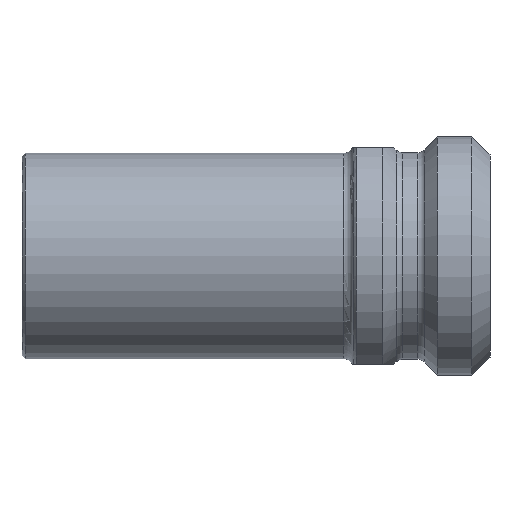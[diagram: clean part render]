
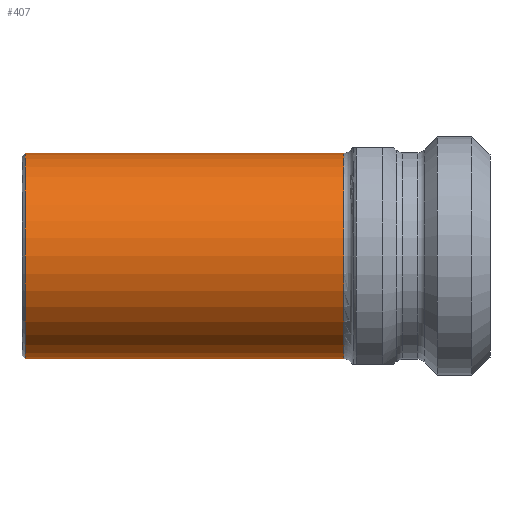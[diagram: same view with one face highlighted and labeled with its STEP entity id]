
A CAD part, front view. The second image highlights one B-rep face of the part: STEP entity #407.
In plain terms, the highlighted cylindrical face has radius 9 mm (diameter 18 mm), a full revolution.
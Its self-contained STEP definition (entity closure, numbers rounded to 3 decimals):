
#36=CIRCLE('',#453,9.);
#39=CIRCLE('',#456,9.);
#50=CIRCLE('',#473,9.);
#51=CIRCLE('',#474,9.);
#65=CYLINDRICAL_SURFACE('',#472,9.);
#81=FACE_OUTER_BOUND('',#104,.T.);
#104=EDGE_LOOP('',(#340,#341,#342,#343,#344,#345));
#134=LINE('',#749,#152);
#152=VECTOR('',#579,9.);
#182=VERTEX_POINT('',#717);
#183=VERTEX_POINT('',#718);
#191=VERTEX_POINT('',#748);
#192=VERTEX_POINT('',#750);
#229=EDGE_CURVE('',#182,#183,#36,.T.);
#232=EDGE_CURVE('',#183,#182,#39,.T.);
#245=EDGE_CURVE('',#182,#191,#134,.T.);
#246=EDGE_CURVE('',#192,#191,#50,.T.);
#247=EDGE_CURVE('',#191,#192,#51,.T.);
#340=ORIENTED_EDGE('',*,*,#229,.F.);
#341=ORIENTED_EDGE('',*,*,#245,.T.);
#342=ORIENTED_EDGE('',*,*,#246,.F.);
#343=ORIENTED_EDGE('',*,*,#247,.F.);
#344=ORIENTED_EDGE('',*,*,#245,.F.);
#345=ORIENTED_EDGE('',*,*,#232,.F.);
#407=ADVANCED_FACE('',(#81),#65,.T.);
#453=AXIS2_PLACEMENT_3D('',#719,#537,#538);
#456=AXIS2_PLACEMENT_3D('',#722,#543,#544);
#472=AXIS2_PLACEMENT_3D('',#747,#577,#578);
#473=AXIS2_PLACEMENT_3D('',#751,#580,#581);
#474=AXIS2_PLACEMENT_3D('',#752,#582,#583);
#537=DIRECTION('center_axis',(1.,0.,0.));
#538=DIRECTION('ref_axis',(0.,-1.,0.));
#543=DIRECTION('center_axis',(1.,0.,0.));
#544=DIRECTION('ref_axis',(0.,-1.,0.));
#577=DIRECTION('center_axis',(1.,0.,0.));
#578=DIRECTION('ref_axis',(0.,1.,0.));
#579=DIRECTION('',(-1.,0.,0.));
#580=DIRECTION('center_axis',(-1.,0.,0.));
#581=DIRECTION('ref_axis',(0.,-1.,0.));
#582=DIRECTION('center_axis',(-1.,0.,0.));
#583=DIRECTION('ref_axis',(0.,-1.,0.));
#717=CARTESIAN_POINT('',(-12.8,-9.,0.));
#718=CARTESIAN_POINT('',(-12.8,0.,9.));
#719=CARTESIAN_POINT('Origin',(-12.8,0.,0.));
#722=CARTESIAN_POINT('Origin',(-12.8,0.,0.));
#747=CARTESIAN_POINT('Origin',(-26.5,0.,0.));
#748=CARTESIAN_POINT('',(-40.7,-9.,0.));
#749=CARTESIAN_POINT('',(-26.5,-9.,0.));
#750=CARTESIAN_POINT('',(-40.7,9.,0.));
#751=CARTESIAN_POINT('Origin',(-40.7,0.,0.));
#752=CARTESIAN_POINT('Origin',(-40.7,0.,0.));
